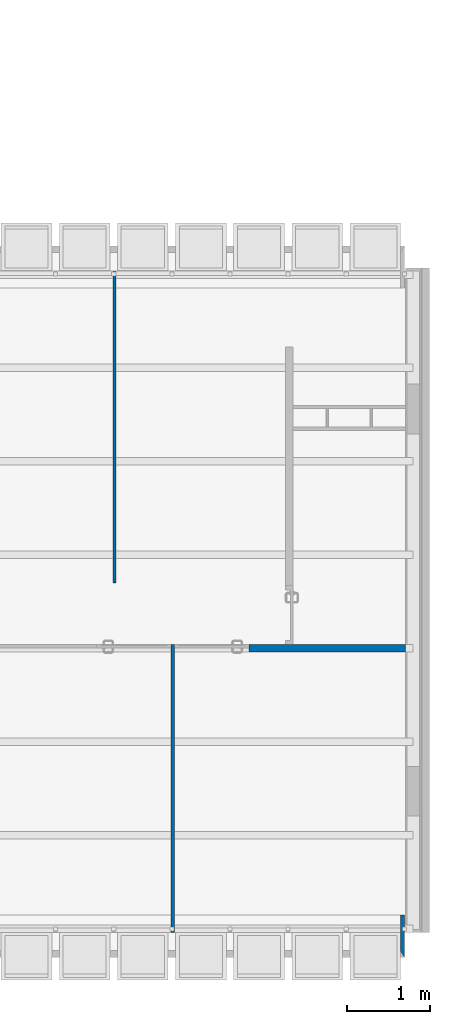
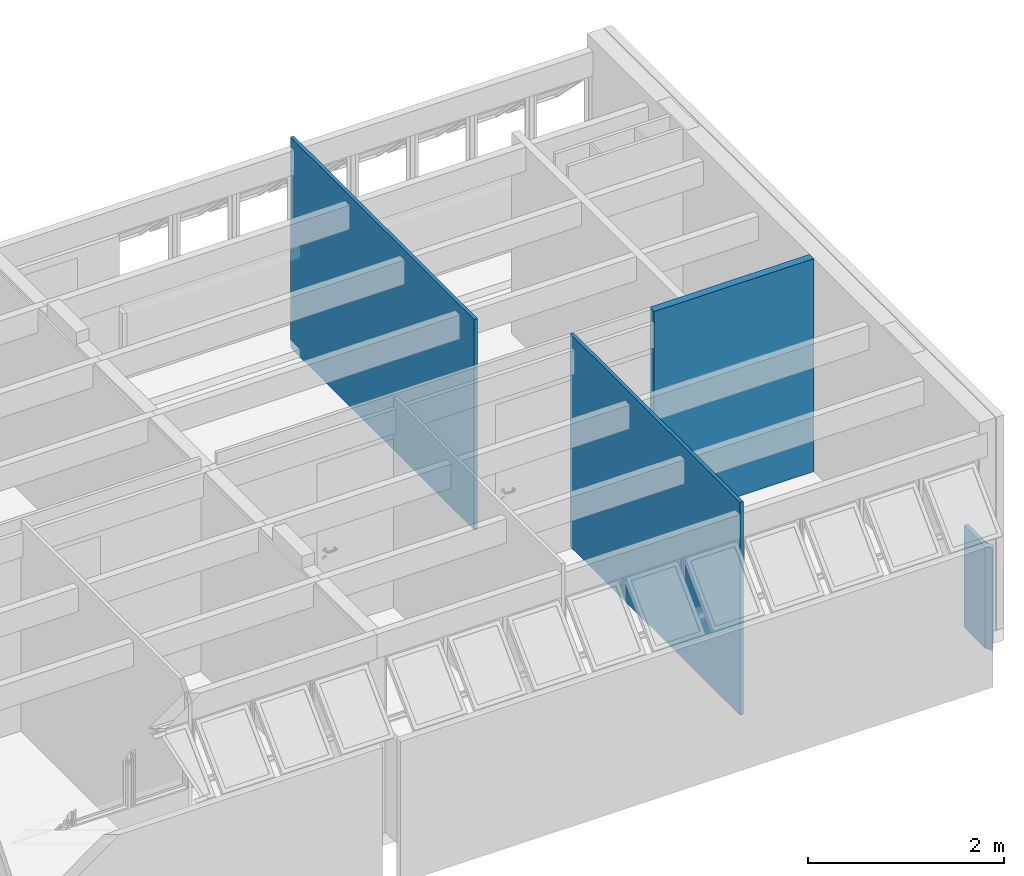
# One storey, part 10 of 37: 4 walls.
"""IFC2X3 building model written with IfcOpenShell, lengths in millimetres."""

from ifc_helpers import new_model, entity, si_unit, converted_unit, derived_unit, money_unit, direction, frame, origin_with_axes, place, context, subcontext, project, spatial, polyline, outline, extrude, material, layer, layer_set, layer_usage, type_object, element, save


model = new_model("IFC2X3")

# Units and contexts
model_context = context("Model", 3, precision=0.01, world=origin_with_axes(), true_north=direction((0.0, 1.0)))
body_context = subcontext(model_context, "Body", "Model", "MODEL_VIEW")
ifc_project = project(units=[si_unit("LENGTHUNIT", "METRE", prefix="MILLI"), si_unit("AREAUNIT", "SQUARE_METRE"), si_unit("VOLUMEUNIT", "CUBIC_METRE"), converted_unit("PLANEANGLEUNIT", "DEGREE", entity("IfcPlaneAngleMeasure", 0.0174532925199), si_unit("PLANEANGLEUNIT", "RADIAN"), dimensions=[0, 0, 0, 0, 0, 0, 0]), money_unit("USD"), converted_unit("TIMEUNIT", "Year", entity("IfcTimeMeasure", 31556926.0), si_unit("TIMEUNIT", "SECOND"), dimensions=[0, 0, 1, 0, 0, 0, 0]), si_unit("MASSUNIT", "GRAM", prefix="KILO"), si_unit("THERMODYNAMICTEMPERATUREUNIT", "DEGREE_CELSIUS"), si_unit("LUMINOUSINTENSITYUNIT", "LUMEN"), si_unit("ENERGYUNIT", "JOULE", prefix="MEGA"), derived_unit("THERMALCONDUCTANCEUNIT", [(si_unit("POWERUNIT", "WATT"), 1), (si_unit("LENGTHUNIT", "METRE"), -1), (si_unit("THERMODYNAMICTEMPERATUREUNIT", "KELVIN"), -1)]), derived_unit("SPECIFICHEATCAPACITYUNIT", [(si_unit("ENERGYUNIT", "JOULE"), 1), (si_unit("MASSUNIT", "GRAM", prefix="KILO"), -1), (si_unit("THERMODYNAMICTEMPERATUREUNIT", "KELVIN"), -1)]), derived_unit("MASSDENSITYUNIT", [(si_unit("MASSUNIT", "GRAM", prefix="KILO"), 1), (si_unit("VOLUMEUNIT", "CUBIC_METRE"), -1)])], contexts=[model_context])

# Site, building, storey
site_placement = place(None, origin_with_axes())
site = spatial("IfcSite", under=ifc_project, at=site_placement, Name="Local", CompositionType="ELEMENT")
building_placement = place(site_placement, origin_with_axes())
building = spatial("IfcBuilding", under=site, at=building_placement, Name="Construção", CompositionType="ELEMENT")
storey_placement = place(building_placement, origin_with_axes())
storey = spatial("IfcBuildingStorey", under=building, at=storey_placement, Name="Primeiro Pavimento", CompositionType="ELEMENT", Elevation=0.0)

# Walls
ifc_material_1 = material(Name="GENÉRICO - VEDAÇÃO EXTERNA")
ifc_layer_1 = layer(ifc_material_1, 40.0, ventilated="UNKNOWN")
ifc_layer_set_1 = layer_set([ifc_layer_1], Name="GENÉRICO - VEDAÇÃO EXTERNA 40")
ifc_layer_usage_1 = layer_usage(ifc_layer_set_1, "AXIS2", "POSITIVE", -40.0)
wall_type_1 = type_object("IfcWallType", Name="GENÉRICO - VEDAÇÃO EXTERNA 40", PredefinedType="NOTDEFINED")
wall_1_placement = place(storey_placement, frame((10960.0, 4505.0, 0.0), z_axis=(0.0, 0.0, 1.0), x_axis=(0.0, 1.0, 0.0)))
element("IfcWallStandardCase", 1, at=wall_1_placement, inside=storey, type_object=wall_type_1, material=ifc_layer_usage_1, Name="APTO2-PAREDE-003", context=body_context, shape_type="SweptSolid", body=[
    extrude(outline(polyline([(0.0, -40.0), (3750.0, -40.0), (3750.0, 0.0), (0.0, 0.0), (0.0, -40.0)])), origin_with_axes(), (0.0, 0.0, 1.0), 2620.0),
])
ifc_layer_usage_2 = layer_usage(ifc_layer_set_1, "AXIS2", "POSITIVE", 0.0)
wall_2_placement = place(storey_placement, frame((11660.0, 3765.0, 0.0), z_axis=(0.0, 0.0, 1.0), x_axis=(0.0, -1.0, 0.0)))
element("IfcWallStandardCase", 2, at=wall_2_placement, inside=storey, type_object=wall_type_1, material=ifc_layer_usage_2, Name="APTO2-PAREDE-007", context=body_context, shape_type="SweptSolid", body=[
    extrude(outline(polyline([(0.0, 0.0), (3465.0, 0.0), (3465.0, 40.0), (0.0, 40.0), (0.0, 0.0)])), origin_with_axes(), (0.0, 0.0, 1.0), 2650.0),
])
ifc_layer_2 = layer(ifc_material_1, 90.0, ventilated="UNKNOWN")
ifc_layer_set_2 = layer_set([ifc_layer_2], Name="GENÉRICO - VEDAÇÃO EXTERNA 90")
ifc_layer_usage_3 = layer_usage(ifc_layer_set_2, "AXIS2", "POSITIVE", 0.0)
wall_type_2 = type_object("IfcWallType", Name="GENÉRICO - VEDAÇÃO EXTERNA 90", PredefinedType="NOTDEFINED")
wall_3_placement = place(storey_placement, frame((14480.0, 3765.2195667, 0.0), z_axis=(0.0, 0.0, 1.0), x_axis=(-1.0, 0.0, 0.0)))
element("IfcWallStandardCase", 3, at=wall_3_placement, inside=storey, type_object=wall_type_2, material=ifc_layer_usage_3, Name="APTO2-PAREDE-019", context=body_context, shape_type="SweptSolid", body=[
    extrude(outline(polyline([(0.0, 0.0), (1880.0, 0.0), (1879.99807021, 90.0), (0.0, 90.0), (0.0, 0.0)])), origin_with_axes(), (0.0, 0.0, 1.0), 2650.0),
])
ifc_material_2 = material(Name="Concreto Armado Moldado in Loco - Estrutural")
ifc_layer_3 = layer(ifc_material_2, 50.0, ventilated="UNKNOWN")
ifc_layer_set_3 = layer_set([ifc_layer_3], Name="Concreto Armado Moldado in Loco - Estrutural 50")
ifc_layer_usage_4 = layer_usage(ifc_layer_set_3, "AXIS2", "POSITIVE", -50.0)
wall_type_3 = type_object("IfcWallType", Name="Concreto Armado Moldado in Loco - Estrutural 50", PredefinedType="NOTDEFINED")
wall_4_placement = place(storey_placement, frame((14470.0, 510.0, 0.0), z_axis=(0.0, 0.0, 1.0), x_axis=(0.0, -1.0, 0.0)))
element("IfcWallStandardCase", 4, at=wall_4_placement, inside=storey, type_object=wall_type_3, material=ifc_layer_usage_4, Name="APTO2-PAREDE-002", context=body_context, shape_type="SweptSolid", body=[
    extrude(outline(polyline([(0.0, -50.0), (430.0, -50.0), (510.0, 0.0), (0.0, 0.0), (0.0, -50.0)])), origin_with_axes(), (0.0, 0.0, 1.0), 1270.0),
])

save(model, "model.ifc")
